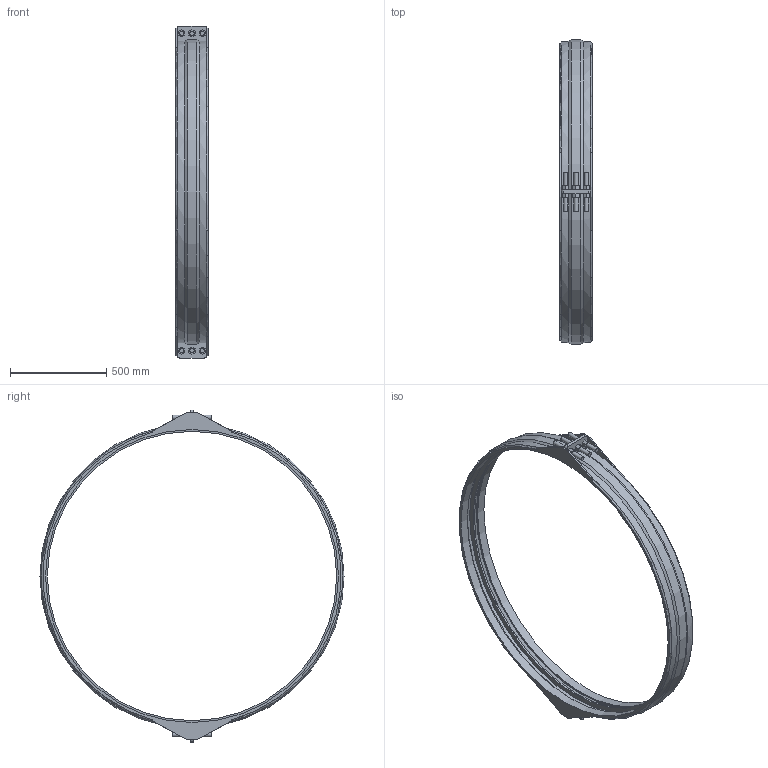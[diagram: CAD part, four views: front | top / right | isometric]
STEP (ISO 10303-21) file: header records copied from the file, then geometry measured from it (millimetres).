
FILE_DESCRIPTION(/* description */ ('VIC SS RESTRAINED COUPLING STYLE 234S (FLEX) (BRS)','CAx-IF Rec.Pracs.---Representation and Presentation of Product Manufacturing Information (PMI)---4.0---2014-10-13'),/* implementation_level */ '2;1');
FILE_NAME(/* name */ 'C:\Users\kkamble\AppData\Roaming\Autodesk\ApplicationPlugins\Back Up\Victaulic_VBSP_Coupling Flexible Restrained_Style 234S (BRS)\Victaulic_VBSP_Coupling Flexible Restrained_Style 234S (BRS)_150psi_60 (1500).stp',/* time_stamp */ '2020-09-22T18:42:48+05:00',/* author */ ('Vjadhav'),/* organization */ ('Victaulic'),/* preprocessor_version */ 'ST-DEVELOPER v17.2',/* originating_system */ 'Autodesk Inventor 2019',/* authorisation */ '');
FILE_SCHEMA (('AP242_MANAGED_MODEL_BASED_3D_ENGINEERING_MIM_LF { 1 0 10303 442 1 1 4 }'));
Length unit declared in the file: inch
Products named in the file (1): Style_234S_Type_2_150psi-60.0
Bounding box: 168.4 x 1581.84 x 1727.2 mm (x, y, z)
Volume: 16951205.7 mm3; surface area: 2424869 mm2
Topology: 1 solids, 1 shells, 191 faces, 477 edges, 316 vertices
Faces by surface type: plane 136, cylinder 43, torus 6, cone 6
Full cylindrical faces by diameter (mm): 22.225 x12, 1504.95 x1, 1524 x2, 1556.445 x2
Entity records: 6198 total; most frequent: CARTESIAN_POINT 1230, DIRECTION 973, ORIENTED_EDGE 954, EDGE_CURVE 477, LINE 343, VECTOR 343, VERTEX_POINT 316, AXIS2_PLACEMENT_3D 315
